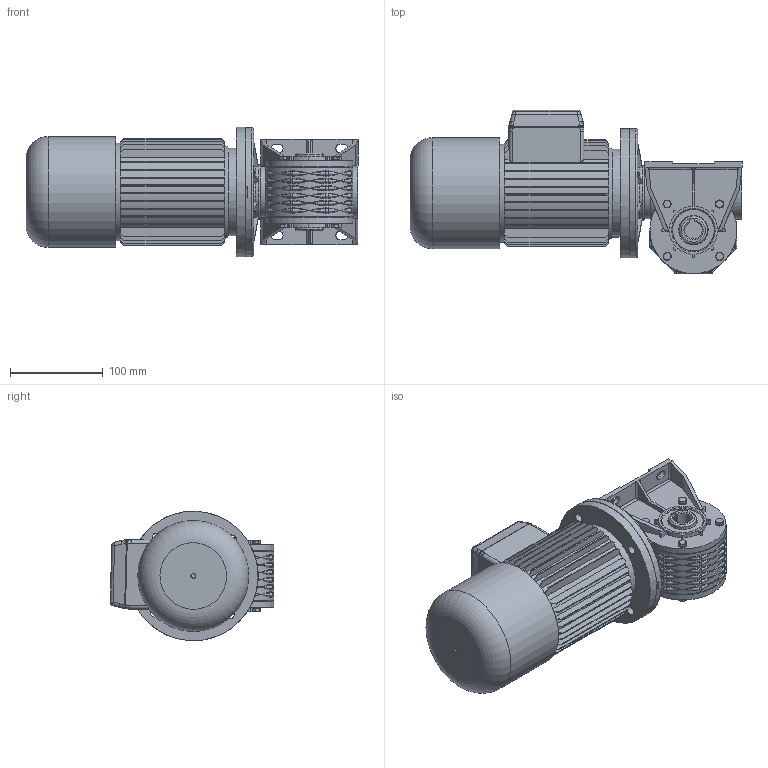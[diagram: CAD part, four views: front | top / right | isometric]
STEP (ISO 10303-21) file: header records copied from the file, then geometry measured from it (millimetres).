
FILE_DESCRIPTION((''),'2;1');
FILE_NAME('Y:\Archivi Inventor\Prog_01\GRAND_05\Figurini\MRV05 VECCHIO\63 B5 - B\MRV05_63B5_P1_B.stp','2014-01-14T11:10:55',('tech3'),(''),'Autodesk Inventor 2013','Autodesk Inventor 2013','');
FILE_SCHEMA(('AUTOMOTIVE_DESIGN { 1 0 10303 214 1 1 1 1 }'));
Length unit declared in the file: millimetre
Products named in the file (18): Assieme1; V05_PRIMARIO; 0100501-A1xfigurini; 0100529-A0; RCA_35x7; 0100528-A0; PARAOLIO 20x30x8; Guarnizione 3_8 GAS; UNI 6592 5.3 x 10; PARAOLIO 30x45x8; DIN EN 24 017  M5 x 16; Tappo 3_8 GAS_esagn_incsst; Corona MRV05 F=19 x figurini; UNI 5931  M 5 x  16; 0100510; DIN EN 24017 M5 x 16; 0100506; motori B5 brake 63
Assembly tree (29 placements, depth 3):
  Assieme1
    V05_PRIMARIO
      0100501-A1xfigurini
      0100529-A0  x2
      RCA_35x7
      0100528-A0
      PARAOLIO 20x30x8
      Guarnizione 3_8 GAS
      UNI 6592 5.3 x 10
      PARAOLIO 30x45x8  x2
      DIN EN 24 017  M5 x 16  x4
      Tappo 3_8 GAS_esagn_incsst
      Corona MRV05 F=19 x figurini
      UNI 5931  M 5 x  16  x4
      0100510  x2
      DIN EN 24017 M5 x 16  x4
    0100506
    motori B5 brake 63
Bounding box: 358.85 x 176.77 x 139.95 mm (x, y, z)
Volume: 2485854.1 mm3; surface area: 459447.2 mm2
Topology: 29 solids, 29 shells, 1623 faces, 3989 edges, 2496 vertices
Faces by surface type: plane 882, cylinder 437, torus 114, cone 94, bspline 92, sphere 4
Full cylindrical faces by diameter (mm): 4.134 x12, 5 x13, 5.3 x1, 5.5 x20, 5.75 x4, 6.88 x8, 8 x1, 8.5 x12, 9.5 x4, 10 x1, 11 x1, 14.95 x1, 16.3 x1, 16.5 x1, 22 x2, 23.105 x1, 28 x1, 30 x4, 30.8 x1, 34.105 x2, 35 x5, 42 x2, 45 x4, 55 x2, 56 x2, 60 x1, 63 x2, 70 x6, 91 x1, 93.5 x2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
Entity records: 68239 total; most frequent: CARTESIAN_POINT 35720, DIRECTION 6707, ORIENTED_EDGE 6410, EDGE_CURVE 3205, AXIS2_PLACEMENT_3D 2517, VERTEX_POINT 2084, VECTOR 1673, LINE 1673
